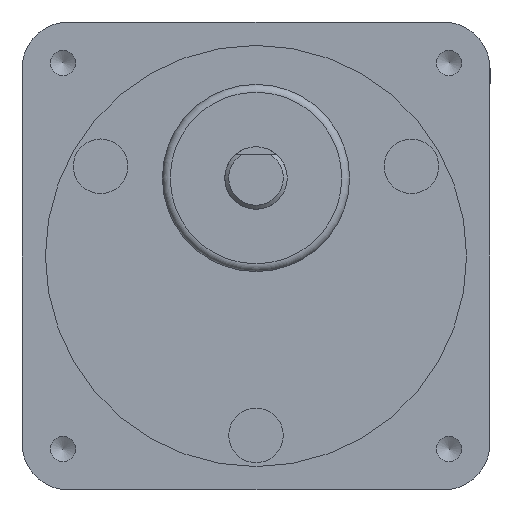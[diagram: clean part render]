
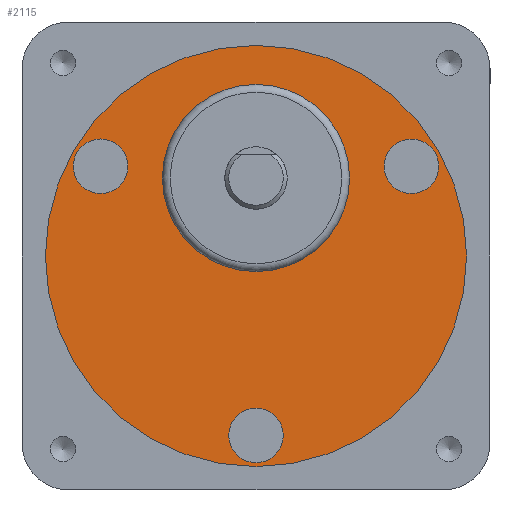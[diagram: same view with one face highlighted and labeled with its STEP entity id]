
A CAD part, front view. The second image highlights one B-rep face of the part: STEP entity #2115.
In plain terms, the highlighted planar face has unit normal (0, -1, 0).
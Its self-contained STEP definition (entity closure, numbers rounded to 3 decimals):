
#60=FACE_BOUND('',#349,.T.);
#61=FACE_BOUND('',#350,.T.);
#62=FACE_BOUND('',#351,.T.);
#63=FACE_BOUND('',#352,.T.);
#115=PLANE('',#2368);
#201=FACE_OUTER_BOUND('',#348,.T.);
#348=EDGE_LOOP('',(#1599));
#349=EDGE_LOOP('',(#1600));
#350=EDGE_LOOP('',(#1601));
#351=EDGE_LOOP('',(#1602));
#352=EDGE_LOOP('',(#1603));
#767=CIRCLE('',#2272,3.5);
#769=CIRCLE('',#2276,3.5);
#771=CIRCLE('',#2280,3.5);
#820=CIRCLE('',#2367,27.);
#821=CIRCLE('',#2369,12.);
#914=VERTEX_POINT('',#3277);
#916=VERTEX_POINT('',#3284);
#918=VERTEX_POINT('',#3291);
#979=VERTEX_POINT('',#3589);
#980=VERTEX_POINT('',#3593);
#1115=EDGE_CURVE('',#914,#914,#767,.T.);
#1118=EDGE_CURVE('',#916,#916,#769,.T.);
#1121=EDGE_CURVE('',#918,#918,#771,.T.);
#1213=EDGE_CURVE('',#979,#979,#820,.T.);
#1214=EDGE_CURVE('',#980,#980,#821,.T.);
#1599=ORIENTED_EDGE('',*,*,#1213,.T.);
#1600=ORIENTED_EDGE('',*,*,#1115,.T.);
#1601=ORIENTED_EDGE('',*,*,#1118,.T.);
#1602=ORIENTED_EDGE('',*,*,#1121,.T.);
#1603=ORIENTED_EDGE('',*,*,#1214,.F.);
#2115=ADVANCED_FACE('',(#201,#60,#61,#62,#63),#115,.F.);
#2272=AXIS2_PLACEMENT_3D('',#3278,#2560,#2561);
#2276=AXIS2_PLACEMENT_3D('',#3285,#2569,#2570);
#2280=AXIS2_PLACEMENT_3D('',#3292,#2578,#2579);
#2367=AXIS2_PLACEMENT_3D('',#3591,#2795,#2796);
#2368=AXIS2_PLACEMENT_3D('',#3592,#2797,#2798);
#2369=AXIS2_PLACEMENT_3D('',#3594,#2799,#2800);
#2560=DIRECTION('center_axis',(0.,1.,0.));
#2561=DIRECTION('ref_axis',(0.5,0.,-0.866));
#2569=DIRECTION('center_axis',(0.,1.,0.));
#2570=DIRECTION('ref_axis',(0.5,0.,0.866));
#2578=DIRECTION('center_axis',(0.,1.,0.));
#2579=DIRECTION('ref_axis',(-1.,0.,0.));
#2795=DIRECTION('center_axis',(0.,-1.,0.));
#2796=DIRECTION('ref_axis',(-1.,0.,0.));
#2797=DIRECTION('center_axis',(0.,1.,0.));
#2798=DIRECTION('ref_axis',(0.,0.,1.));
#2799=DIRECTION('center_axis',(0.,-1.,0.));
#2800=DIRECTION('ref_axis',(-1.,0.,0.));
#3277=CARTESIAN_POINT('',(18.169,0.5,14.531));
#3278=CARTESIAN_POINT('Origin',(19.919,0.5,11.5));
#3284=CARTESIAN_POINT('',(-21.669,0.5,8.469));
#3285=CARTESIAN_POINT('Origin',(-19.919,0.5,11.5));
#3291=CARTESIAN_POINT('',(3.5,0.5,-23.));
#3292=CARTESIAN_POINT('Origin',(0.,0.5,-23.));
#3589=CARTESIAN_POINT('',(27.,0.5,0.));
#3591=CARTESIAN_POINT('Origin',(0.,0.5,0.));
#3592=CARTESIAN_POINT('Origin',(0.,0.5,0.));
#3593=CARTESIAN_POINT('',(12.,0.5,10.));
#3594=CARTESIAN_POINT('Origin',(0.,0.5,10.));
